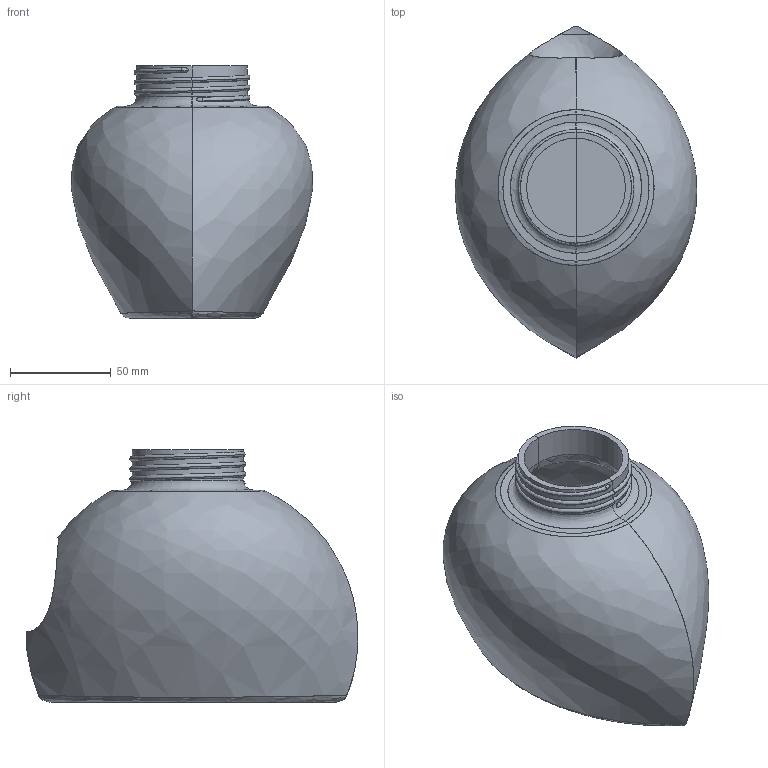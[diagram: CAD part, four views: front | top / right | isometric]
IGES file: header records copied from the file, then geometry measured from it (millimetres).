
Start section: START RECORD GO HERE.
Global section: file name: c1-Camacho_Lopez_Jordi-solucion-posible.igs; native system: IBM CATIA IGES - CATIA Version 5 Release 19 ; preprocessor: CATIA Version 5 Release 19 ; author: andres.garcia; organization: IQS; date: 20200131.143912; units: millimetre
Bounding box: 119.57 x 164.47 x 125 mm (x, y, z)
Surface area: 111727.5 mm2 (no closed solid volume)
Topology: 0 solids, 0 shells, 54 faces, 252 edges, 248 vertices
Faces by surface type: bspline 32, revolution 16, plane 6
